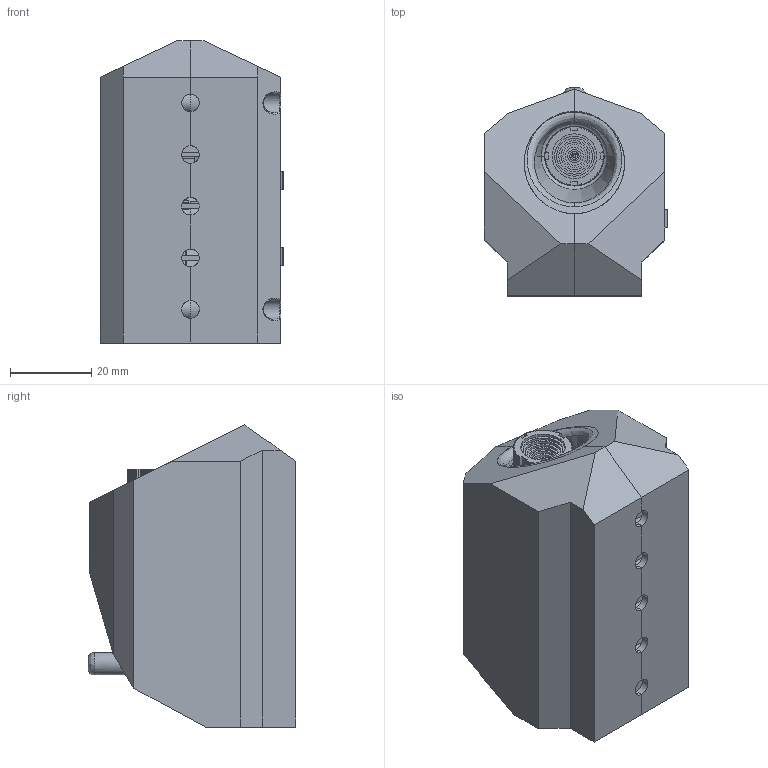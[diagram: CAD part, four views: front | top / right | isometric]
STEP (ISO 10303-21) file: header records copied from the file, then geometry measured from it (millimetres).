
FILE_DESCRIPTION (( 'STEP AP203' ), '1' );
FILE_NAME ('Vex-Camera-Assy.STEP', '2007-11-07T16:13:04', ( 'Innovation First, Inc.' ), ( 'Innovation First, Inc.' ), 'SwSTEP 2.0', 'SolidWorks 2006303', '' );
FILE_SCHEMA (( 'CONFIG_CONTROL_DESIGN' ));
Length unit declared in the file: inch
Products named in the file (7): CAMERA-HOUSING-LC-R; CAMERA-HOUSING-LENS; CAMERA-SWITCH-2; Vex-Camera-Assy; CAMERA-SWITCH-1; CAMERA-HOUSING-LC-L; CAMERA-MODULE
Assembly tree (6 placements, depth 2):
  Vex-Camera-Assy
    CAMERA-HOUSING-LC-R
    CAMERA-HOUSING-LENS
    CAMERA-SWITCH-1
    CAMERA-HOUSING-LC-L
    CAMERA-SWITCH-2
    CAMERA-MODULE
Bounding box: 45.23 x 51.14 x 74.3 mm (x, y, z)
Volume: 38666.7 mm3; surface area: 43060.5 mm2
Topology: 6 solids, 6 shells, 1373 faces, 3628 edges, 2294 vertices
Faces by surface type: plane 756, cylinder 282, bspline 266, torus 62, cone 7
Entity records: 57975 total; most frequent: CARTESIAN_POINT 26123, ORIENTED_EDGE 7256, DIRECTION 5527, EDGE_CURVE 3628, VERTEX_POINT 2294, VECTOR 2119, LINE 2119, AXIS2_PLACEMENT_3D 1704
